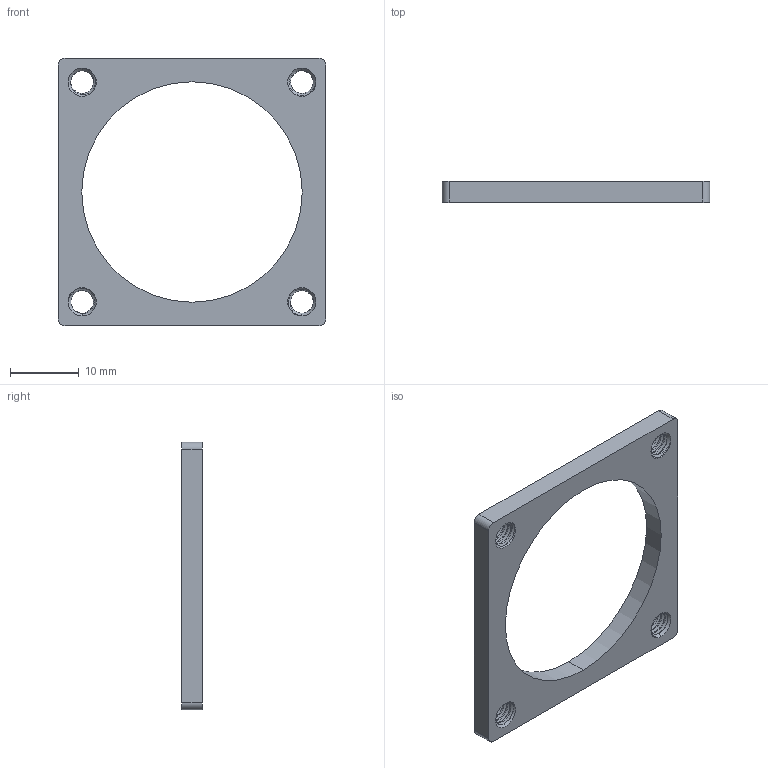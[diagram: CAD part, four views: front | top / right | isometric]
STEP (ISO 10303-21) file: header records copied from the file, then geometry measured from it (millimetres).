
FILE_DESCRIPTION (( 'STEP AP203' ), '1' );
FILE_NAME ('2803-0039-0039.STEP', '2023-01-16T22:57:58', ( '' ), ( '' ), 'SwSTEP 2.0', 'SolidWorks 2016', '' );
FILE_SCHEMA (( 'CONFIG_CONTROL_DESIGN' ));
Length unit declared in the file: millimetre
Products named in the file (1): 2803-0039-0039
Bounding box: 39 x 3 x 39 mm (x, y, z)
Volume: 2006.7 mm3; surface area: 2296.9 mm2
Topology: 1 solids, 1 shells, 112 faces, 324 edges, 214 vertices
Faces by surface type: cylinder 78, cone 20, bspline 8, plane 6
Entity records: 13299 total; most frequent: CARTESIAN_POINT 10695, ORIENTED_EDGE 648, DIRECTION 424, EDGE_CURVE 324, VERTEX_POINT 214, AXIS2_PLACEMENT_3D 161, EDGE_LOOP 122, FACE_OUTER_BOUND 112
